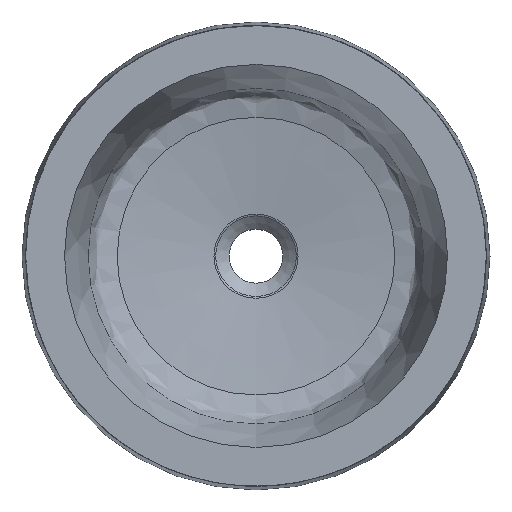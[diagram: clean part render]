
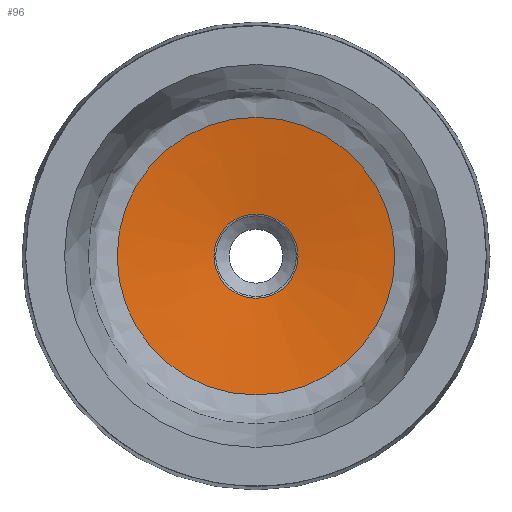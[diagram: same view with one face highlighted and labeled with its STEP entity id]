
A CAD part, top view. The second image highlights one B-rep face of the part: STEP entity #96.
In plain terms, the highlighted conical face has half-angle 82.292 degrees and reference radius 119.113 mm.
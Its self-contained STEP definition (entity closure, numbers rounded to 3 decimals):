
#45=CONICAL_SURFACE('',#341,119.113,82.292);
#96=ADVANCED_FACE('',(#122,#123),#45,.F.);
#122=FACE_BOUND('',#151,.T.);
#123=FACE_BOUND('',#152,.T.);
#151=EDGE_LOOP('',(#194));
#152=EDGE_LOOP('',(#195));
#194=ORIENTED_EDGE('',*,*,#288,.T.);
#195=ORIENTED_EDGE('',*,*,#286,.T.);
#258=VERTEX_POINT('',#705);
#260=VERTEX_POINT('',#711);
#286=EDGE_CURVE('',#258,#258,#316,.T.);
#288=EDGE_CURVE('',#260,#260,#318,.T.);
#316=CIRCLE('',#336,37.313);
#318=CIRCLE('',#340,123.195);
#336=AXIS2_PLACEMENT_3D('',#704,#380,#381);
#340=AXIS2_PLACEMENT_3D('',#710,#388,#389);
#341=AXIS2_PLACEMENT_3D('',#712,#390,#391);
#380=DIRECTION('',(0.,0.,-1.));
#381=DIRECTION('',(0.,-1.,0.));
#388=DIRECTION('',(0.,0.,1.));
#389=DIRECTION('',(0.,1.,0.));
#390=DIRECTION('',(0.,0.,1.));
#391=DIRECTION('',(0.,-1.,0.));
#704=CARTESIAN_POINT('',(0.,0.,-122.979));
#705=CARTESIAN_POINT('',(0.,-37.313,-122.979));
#710=CARTESIAN_POINT('',(0.,0.,-111.354));
#711=CARTESIAN_POINT('',(0.,123.195,-111.354));
#712=CARTESIAN_POINT('',(0.,0.,-111.907));
